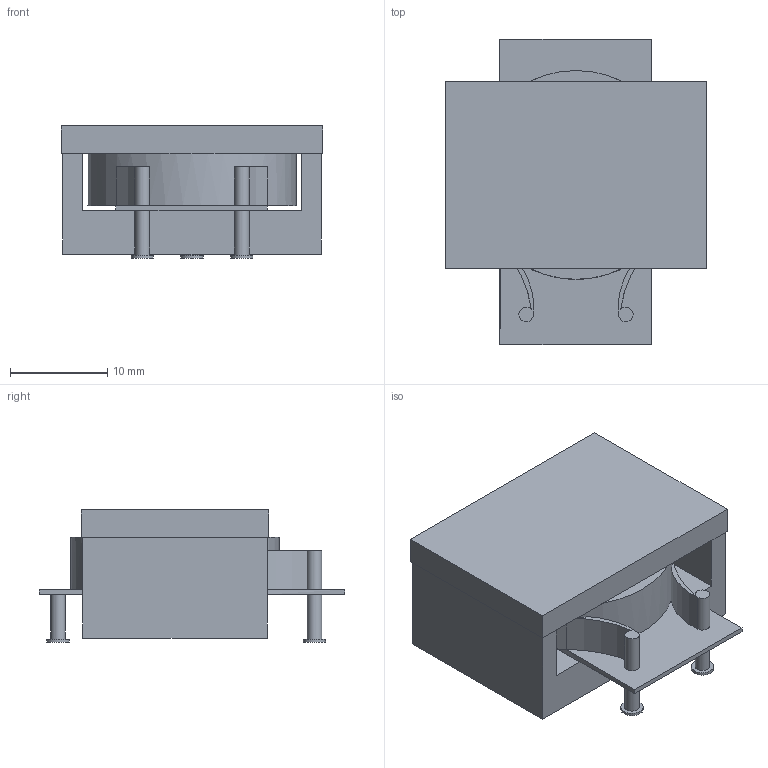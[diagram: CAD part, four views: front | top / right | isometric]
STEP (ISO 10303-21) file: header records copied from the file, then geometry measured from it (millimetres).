
FILE_DESCRIPTION(('FreeCAD Model'),'2;1');
FILE_NAME('Open CASCADE Shape Model','2025-04-12T20:21:03',('Author'),( ''),'Open CASCADE STEP processor 7.8','FreeCAD','Unknown');
FILE_SCHEMA(('AUTOMOTIVE_DESIGN { 1 0 10303 214 1 1 1 1 }'));
Length unit declared in the file: millimetre
Products named in the file (1): Pad007
Bounding box: 26.9 x 31.5 x 13.6 mm (x, y, z)
Volume: 6444.9 mm3; surface area: 3491.4 mm2
Topology: 1 solids, 1 shells, 49 faces, 115 edges, 72 vertices
Faces by surface type: plane 36, cylinder 13
Full cylindrical faces by diameter (mm): 1.5 x3, 2.3 x3, 21.499 x1
Entity records: 1662 total; most frequent: DIRECTION 251, CARTESIAN_POINT 237, ORIENTED_EDGE 230, EDGE_CURVE 115, AXIS2_PLACEMENT_3D 86, LINE 79, VECTOR 79, VERTEX_POINT 72
